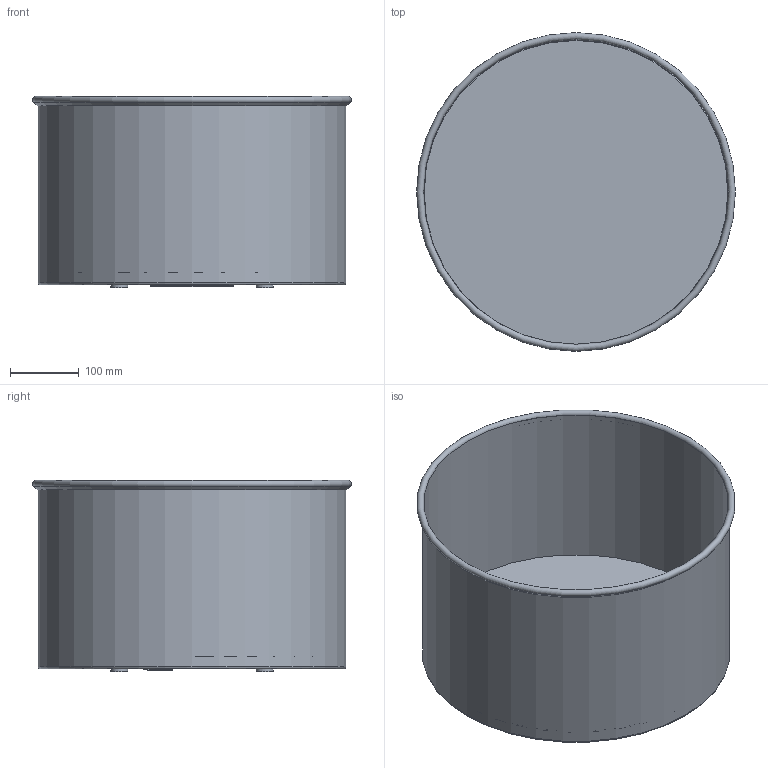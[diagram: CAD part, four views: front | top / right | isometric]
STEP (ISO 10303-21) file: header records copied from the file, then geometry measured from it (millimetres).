
FILE_DESCRIPTION(/* description */ (''),/* implementation_level */ '2;1');
FILE_NAME(/* name */ 'C:\AutodeskVault\AreaLavoro\Progetti\SoVeT Italia\3. Specchi_Mirrors\Horizon\Web file\Horizon Web\P5310.stp',/* time_stamp */ '2015-01-21T09:29:34+01:00',/* author */ ('Gianluca'),/* organization */ ('So.Ve.T. s.r.l.'),/* preprocessor_version */ 'ST-DEVELOPER v15.2',/* originating_system */ 'Autodesk Inventor 2014',/* authorisation */ 'IL PROGETTO E'' DI ESCLUSIVA PROPRIETA'' DELLA SO.VE.T. srl. E'' VIETATA OGNI RIPRODUZIONE TOTALE O PARZIALE E QUALSIASI UTILIZZO NON AUTORIZZATO.');
FILE_SCHEMA (('AUTOMOTIVE_DESIGN { 1 0 10303 214 3 1 1 }'));
Length unit declared in the file: centimetre
Products named in the file (1): P5310 Contorno semplificato
Bounding box: 464.98 x 464.98 x 278.99 mm (x, y, z)
Volume: 1711353.5 mm3; surface area: 1400342.5 mm2
Topology: 1 solids, 2 shells, 52 faces, 116 edges, 74 vertices
Faces by surface type: plane 24, cylinder 19, cone 5, torus 4
Full cylindrical faces by diameter (mm): 3 x4, 6 x3, 25 x4, 200 x1, 443 x1, 445 x2, 449 x2
Entity records: 1344 total; most frequent: DIRECTION 230, CARTESIAN_POINT 193, ORIENTED_EDGE 158, AXIS2_PLACEMENT_3D 99, EDGE_LOOP 94, EDGE_CURVE 78, VERTEX_POINT 62, STYLED_ITEM 53
